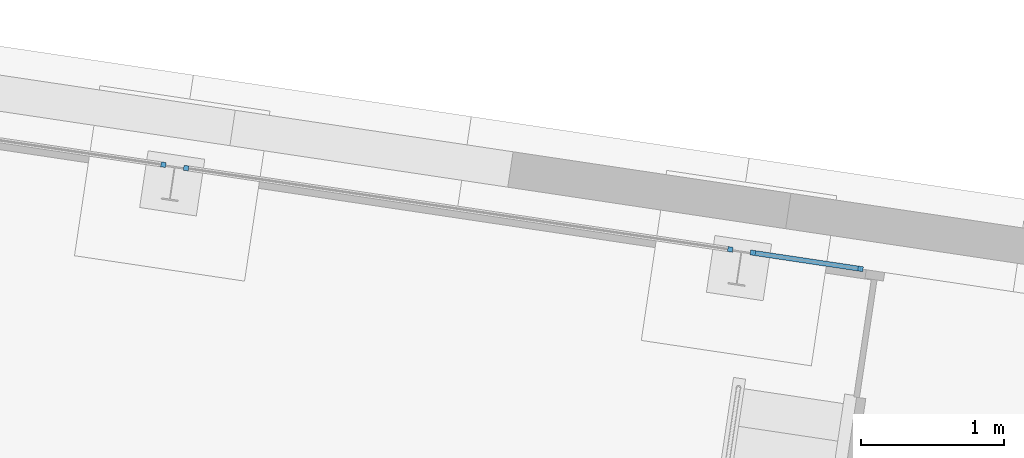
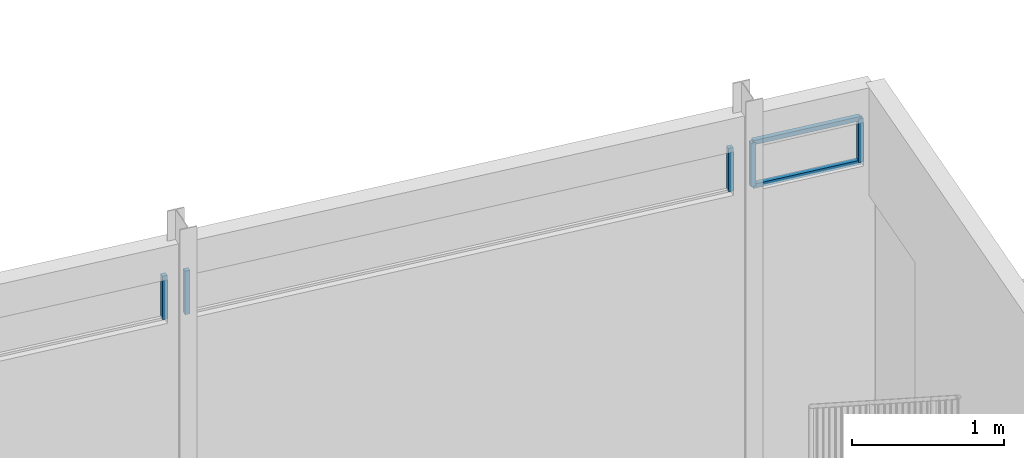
# One storey, part 121 of 142: 7 members.
"""IFC4 building model written with IfcOpenShell, lengths in metres."""

from ifc_helpers import new_model, si_unit, direction, frame, origin_with_axes, place, context, subcontext, project, spatial, rectangle, extrude, material, material_profile, profile_set, profile_usage, type_object, element, save


model = new_model("IFC4")

# Units and contexts
model_context = context("Model", 3, precision=1e-05, world=origin_with_axes(), true_north=direction((0.0, 1.0)))
body_context = subcontext(model_context, "Body", "Model", "MODEL_VIEW")
ifc_project = project(units=[si_unit("VOLUMEUNIT", "CUBIC_METRE"), si_unit("LENGTHUNIT", "METRE"), si_unit("AREAUNIT", "SQUARE_METRE")], contexts=[model_context])

# Site, building, storey
site_placement = place(None, origin_with_axes())
site = spatial("IfcSite", under=ifc_project, at=site_placement, Name="Lares · Rua das Mercês · artigo 4771")
building_placement = place(site_placement, frame((12.0, 10.2, 13.9), z_axis=(0.0, 0.0, 1.0), x_axis=(0.989015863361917, -0.147809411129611, 0.0)))
building = spatial("IfcBuilding", under=site, at=building_placement, Name="Casa Sobreposta")
storey_placement = place(building_placement, origin_with_axes())
storey = spatial("IfcBuildingStorey", under=building, at=storey_placement, Name="00 · Habitação e estacionamento", Elevation=13.9)

# Members
ifc_material = material(Name="Aço pintado / Stahl lackiert", Category="steel")
ifc_material_profile = material_profile(ifc_material, rectangle(XDim=0.035, YDim=0.035))
ifc_profile_set = profile_set([ifc_material_profile], Name="R0.035")
ifc_profile_usage_1 = profile_usage(ifc_profile_set)
member_type = type_object("IfcMemberType", Name="R0.035 / steel", PredefinedType="NOTDEFINED", material=ifc_profile_set)
member_1_placement = place(storey_placement, frame((19.92, 6.4, 2.35), z_axis=(0.0, 0.0, 1.0), x_axis=(1.0, 0.0, 0.0)))
element("IfcMember", 1, at=member_1_placement, inside=storey, type_object=member_type, material=ifc_profile_usage_1, Name="Rasgo norte 5 · montante", context=body_context, shape_type="SweptSolid", body=[
    extrude(rectangle(XDim=0.035, YDim=0.035), origin_with_axes(), (0.0, 0.0, 1.0), 0.35),
])
ifc_profile_usage_2 = profile_usage(ifc_profile_set)
member_2_placement = place(storey_placement, frame((20.08, 6.4, 2.35), z_axis=(0.0, 0.0, 1.0), x_axis=(1.0, 0.0, 0.0)))
element("IfcMember", 2, at=member_2_placement, inside=storey, type_object=member_type, material=ifc_profile_usage_2, Name="Rasgo norte 6 · montante", context=body_context, shape_type="SweptSolid", body=[
    extrude(rectangle(XDim=0.035, YDim=0.035), origin_with_axes(), (0.0, 0.0, 1.0), 0.35),
])
ifc_profile_usage_3 = profile_usage(ifc_profile_set)
member_3_placement = place(storey_placement, frame((23.92, 6.4, 2.35), z_axis=(0.0, 0.0, 1.0), x_axis=(1.0, 0.0, 0.0)))
element("IfcMember", 3, at=member_3_placement, inside=storey, type_object=member_type, material=ifc_profile_usage_3, Name="Rasgo norte 6 · montante", context=body_context, shape_type="SweptSolid", body=[
    extrude(rectangle(XDim=0.035, YDim=0.035), origin_with_axes(), (0.0, 0.0, 1.0), 0.35),
])
ifc_profile_usage_4 = profile_usage(ifc_profile_set)
member_4_placement = place(storey_placement, frame((24.08, 6.4, 2.35), z_axis=(0.0, 0.0, 1.0), x_axis=(1.0, 0.0, 0.0)))
element("IfcMember", 4, at=member_4_placement, inside=storey, type_object=member_type, material=ifc_profile_usage_4, Name="Rasgo norte 7 · montante", context=body_context, shape_type="SweptSolid", body=[
    extrude(rectangle(XDim=0.035, YDim=0.035), origin_with_axes(), (0.0, 0.0, 1.0), 0.35),
])
ifc_profile_usage_5 = profile_usage(ifc_profile_set)
member_5_placement = place(storey_placement, frame((24.84, 6.4, 2.35), z_axis=(0.0, 0.0, 1.0), x_axis=(1.0, 0.0, 0.0)))
element("IfcMember", 5, at=member_5_placement, inside=storey, type_object=member_type, material=ifc_profile_usage_5, Name="Rasgo norte 7 · montante", context=body_context, shape_type="SweptSolid", body=[
    extrude(rectangle(XDim=0.035, YDim=0.035), origin_with_axes(), (0.0, 0.0, 1.0), 0.35),
])
ifc_profile_usage_6 = profile_usage(ifc_profile_set)
member_6_placement = place(storey_placement, frame((24.08, 6.4, 2.35), z_axis=(1.0, 0.0, 0.0), x_axis=(0.0, -1.0, 0.0)))
element("IfcMember", 6, at=member_6_placement, inside=storey, type_object=member_type, material=ifc_profile_usage_6, Name="Rasgo norte 7 · travessa", context=body_context, shape_type="SweptSolid", body=[
    extrude(rectangle(XDim=0.035, YDim=0.035), origin_with_axes(), (0.0, 0.0, 1.0), 0.760000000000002),
])
ifc_profile_usage_7 = profile_usage(ifc_profile_set)
member_7_placement = place(storey_placement, frame((24.08, 6.4, 2.7), z_axis=(1.0, 0.0, 0.0), x_axis=(0.0, -1.0, 0.0)))
element("IfcMember", 7, at=member_7_placement, inside=storey, type_object=member_type, material=ifc_profile_usage_7, Name="Rasgo norte 7 · travessa", context=body_context, shape_type="SweptSolid", body=[
    extrude(rectangle(XDim=0.035, YDim=0.035), origin_with_axes(), (0.0, 0.0, 1.0), 0.760000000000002),
])

save(model, "model.ifc")
